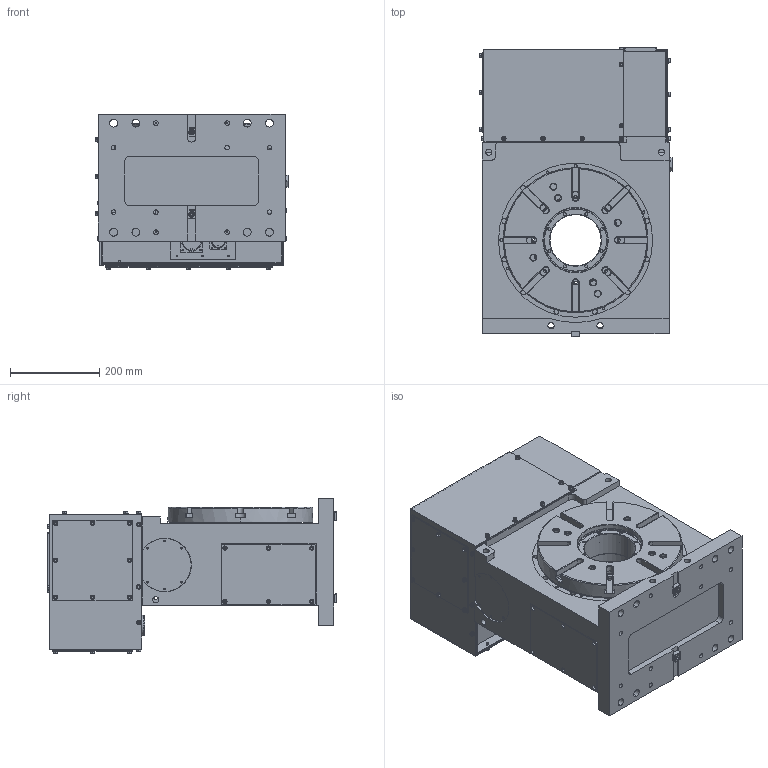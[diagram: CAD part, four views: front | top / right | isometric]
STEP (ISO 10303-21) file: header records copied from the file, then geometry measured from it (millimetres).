
FILE_DESCRIPTION (( 'STEP AP203' ), '1' );
FILE_NAME ('15121385-MDU323R-16.STEP', '2020-12-05T05:23:04', ( '' ), ( '' ), 'SwSTEP 2.0', 'SolidWorks 2019', '' );
FILE_SCHEMA (( 'CONFIG_CONTROL_DESIGN' ));
Products named in the file (1): 15121385-MDU323R-16
Bounding box: 432.43 x 651.1 x 349.35 mm (x, y, z)
Surface area: 1871193.2 mm2 (no closed solid volume)
Topology: 0 solids, 144 shells, 1373 faces, 4414 edges, 3163 vertices
Faces by surface type: cylinder 623, plane 558, cone 190, torus 2
Entity records: 49850 total; most frequent: CARTESIAN_POINT 9322, DIRECTION 9216, ORIENTED_EDGE 6896, EDGE_CURVE 4414, AXIS2_PLACEMENT_3D 3495, VERTEX_POINT 3163, LINE 2226, VECTOR 2226
